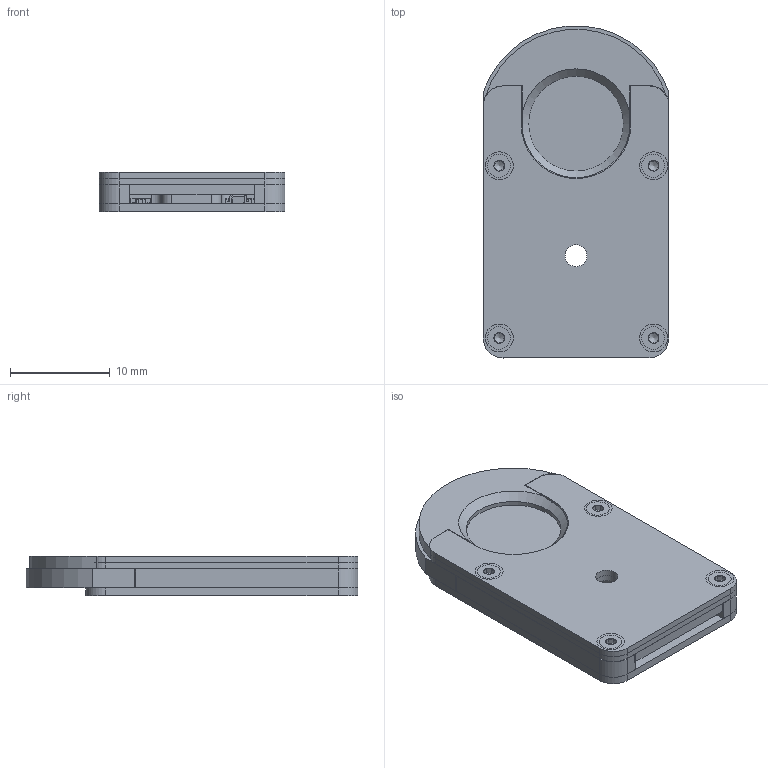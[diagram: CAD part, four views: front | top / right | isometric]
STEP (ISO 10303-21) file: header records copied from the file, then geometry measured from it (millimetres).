
FILE_DESCRIPTION(/* description */ ('Alibre Inc.'),/* implementation_level */ '2;1');
FILE_NAME(/* name */ 'export-3DC3D2E8-DA16-4B04-A65B-5A9AE531B729',/* time_stamp */ '2026-06-25T13:17:13+02:00',/* author */ (''),/* organization */ (''),/* preprocessor_version */ 'ST-DEVELOPER v17',/* originating_system */ 'Alibre',/* authorisation */ '');
FILE_SCHEMA (('CONFIG_CONTROL_DESIGN'));
Length unit declared in the file: millimetre
Products named in the file (73): s7221-45; QCM2; CC01; SIG; QCM1; GND; VDC; SDA; SCL; SC-70; U2; R0402_0R; R7; R6; CAPC0402_v2; C4; C3; C2; R2; R1; C1; LMV822IQ2T--3DModel-STEP-56544; U1; PCB
Bounding box: 18.61 x 33.25 x 3.97 mm (x, y, z)
Volume: 1552.5 mm3; surface area: 5494.1 mm2
Topology: 74 solids, 82 shells, 1563 faces, 3923 edges, 2514 vertices
Faces by surface type: plane 846, cylinder 553, sphere 64, bspline 52, cone 41, torus 7
Full cylindrical faces by diameter (mm): 1.1 x4, 1.4 x40, 1.6 x12, 2.2 x3, 2.8 x4, 9.5 x1, 13.75 x1, 14 x1
Entity records: 35919 total; most frequent: CARTESIAN_POINT 8996, ORIENTED_EDGE 3982, DIRECTION 3759, EDGE_CURVE 2010, AXIS2_PLACEMENT_3D 1452, VECTOR 1313, LINE 1313, VERTEX_POINT 1310
